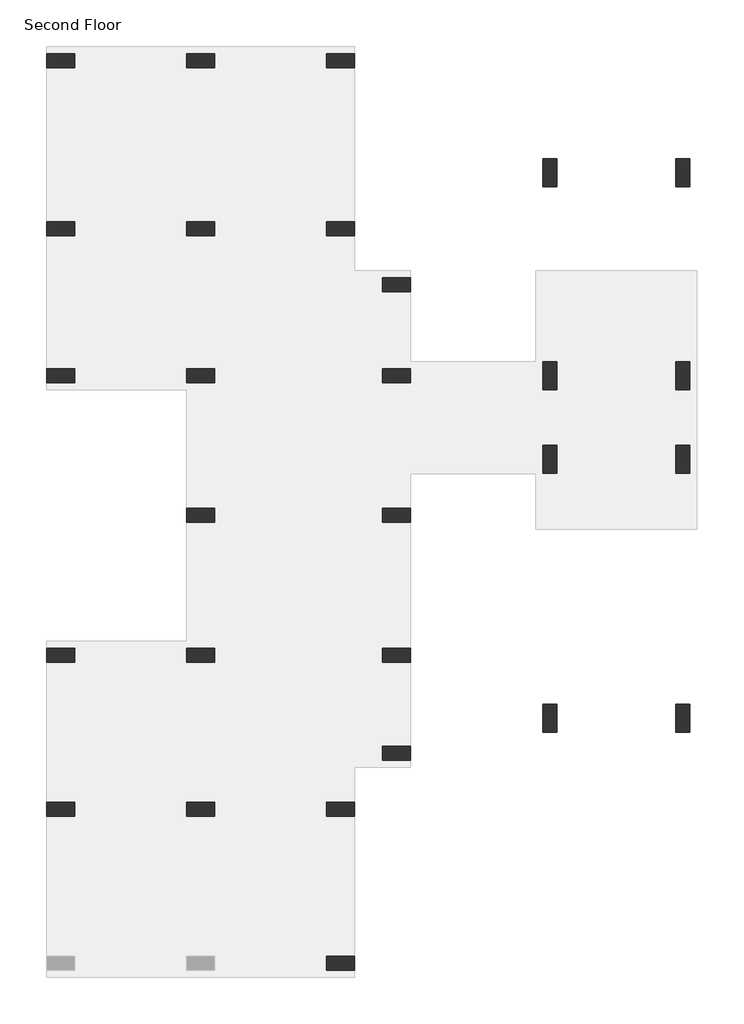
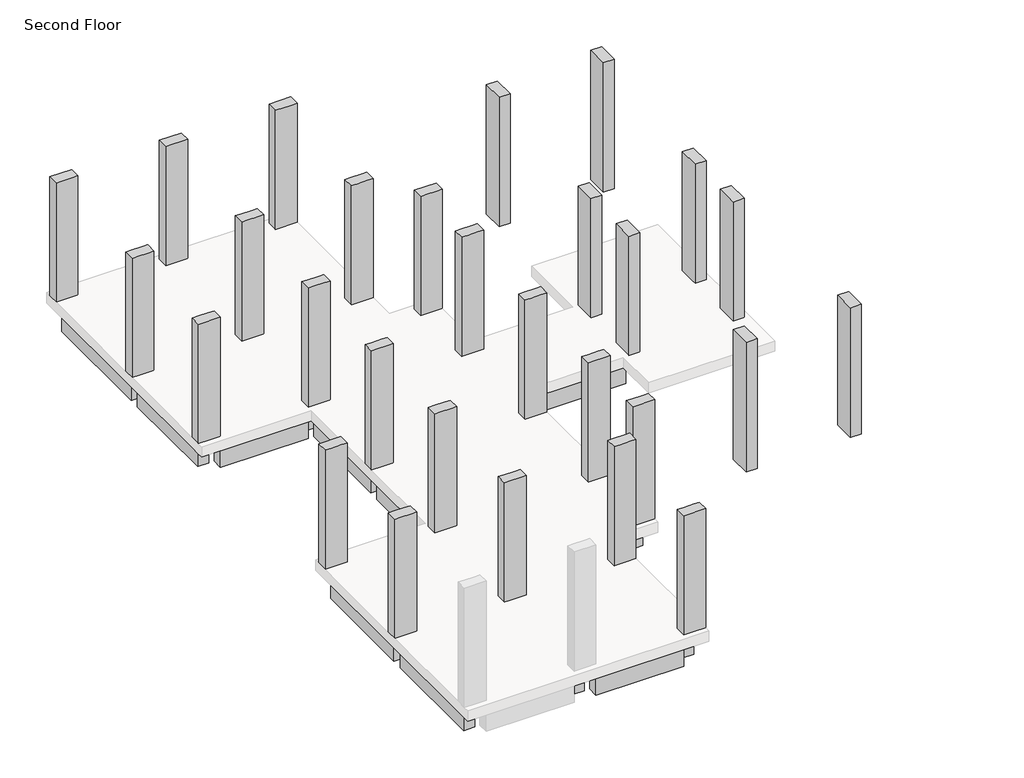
# One storey, part 2 of 2: 36 beams, 28 columns.
"""IFC4 building model written with IfcOpenShell, lengths in millimetres."""

import ifcopenshell
import ifcopenshell.guid

model = None  # the IFC model being written
_history = None  # IfcOwnerHistory: only IFC2X3 demands one
_inside = {}  # id of a spatial element -> (the spatial element, [elements in it])
_under = {}  # id of a project, library or spatial element -> (it, [spatial elements below it])
_declared = {}  # id of a project -> (the project, [libraries it declares])
_typed = {}  # id of a type object -> (the type object, [elements of that type])
_made_of = {}  # id of a material, layer set ... -> (it, [elements and type objects made of it])


def new_model(schema):
    """Start an empty IFC model of exactly this schema.

    Asked for "IFC4X3", IfcOpenShell would pick the latest addendum, in which some entities
    have other attributes; the version numbers below select the first issue.
    IFC2X3 requires an IfcOwnerHistory on every rooted entity: one is made here for all.
    """
    global model, _history
    if schema == "IFC4X3":
        model = ifcopenshell.file(schema_version=(4, 3, 0, 0))
    else:
        model = ifcopenshell.file(schema=schema)
    _inside.clear()
    _under.clear()
    _declared.clear()
    _typed.clear()
    _made_of.clear()
    _history = None
    if model.schema == "IFC2X3":
        org = make("IfcOrganization", Name="unknown")
        user = make(
            "IfcPersonAndOrganization",
            ThePerson=make("IfcPerson", FamilyName="unknown"),
            TheOrganization=org,
        )
        app = make(
            "IfcApplication",
            ApplicationDeveloper=org,
            Version="unknown",
            ApplicationFullName="unknown",
            ApplicationIdentifier="unknown",
        )
        _history = make(
            "IfcOwnerHistory",
            OwningUser=user,
            OwningApplication=app,
            ChangeAction="ADDED",
            CreationDate=0,
        )
    return model


def make(cls, **values):
    """One entity of the class cls with the attributes given. An attribute that is None is left unset."""
    return model.create_entity(
        cls, **{name: value for name, value in values.items() if value is not None}
    )


def rooted(cls, **values):
    """An entity with a GlobalId (a new one), such as an element, a storey or a relation."""
    return make(cls, GlobalId=ifcopenshell.guid.new(), OwnerHistory=_history, **values)


def si_unit(unit_type, name, prefix=None):
    """IfcSIUnit, for example si_unit("LENGTHUNIT", "METRE", prefix="MILLI")."""
    return make("IfcSIUnit", UnitType=unit_type, Prefix=prefix, Name=name)


def assignment(units):
    """IfcUnitAssignment: the units of a project."""
    return None if units is None else make("IfcUnitAssignment", Units=units)


def point(xyz):
    """IfcCartesianPoint."""
    return None if xyz is None else make("IfcCartesianPoint", Coordinates=xyz)


def direction(xyz):
    """IfcDirection."""
    return None if xyz is None else make("IfcDirection", DirectionRatios=xyz)


def frame(location, z_axis=None, x_axis=None):
    """IfcAxis2Placement3D, a coordinate frame: its origin and axes. An axis left out is left unset."""
    return make(
        "IfcAxis2Placement3D",
        Location=point(location),
        Axis=direction(z_axis),
        RefDirection=direction(x_axis),
    )


def origin():
    """The frame at (0, 0, 0) with its axes left unset."""
    return frame((0.0, 0.0, 0.0))


def place(relative_to, where):
    """IfcLocalPlacement: puts the frame where relative to a parent placement (None: the world)."""
    return make(
        "IfcLocalPlacement", PlacementRelTo=relative_to, RelativePlacement=where
    )


def context(
    kind, dimensions, precision=None, world=None, true_north=None, identifier=None
):
    """IfcGeometricRepresentationContext, for example the 3D "Model" context."""
    return make(
        "IfcGeometricRepresentationContext",
        ContextIdentifier=identifier,
        ContextType=kind,
        CoordinateSpaceDimension=dimensions,
        Precision=precision,
        WorldCoordinateSystem=world,
        TrueNorth=true_north,
    )


def project(units=None, contexts=None):
    """IfcProject with its units and contexts."""
    return rooted(
        "IfcProject",
        Name="project",
        RepresentationContexts=contexts,
        UnitsInContext=assignment(units),
    )


def spatial(cls, under=None, at=None, **own):
    """A site, building, storey or space (cls), placed at a placement, below another one or the project."""
    s = rooted(cls, ObjectPlacement=at, **own)
    if under is not None:
        _under.setdefault(under.id(), (under, []))[1].append(s)
    return s


def polyline(points):
    """IfcPolyline through the points."""
    return make("IfcPolyline", Points=[point(p) for p in points])


def outline(outer, holes=None, kind="AREA"):
    """IfcArbitraryClosedProfileDef: a profile drawn as a closed curve; with holes, ...WithVoids."""
    if holes is None:
        return make("IfcArbitraryClosedProfileDef", ProfileType=kind, OuterCurve=outer)
    return make(
        "IfcArbitraryProfileDefWithVoids",
        ProfileType=kind,
        OuterCurve=outer,
        InnerCurves=holes,
    )


def extrude(swept, where, along, depth):
    """IfcExtrudedAreaSolid: the profile swept, set in the frame where, extruded along a direction by depth."""
    return make(
        "IfcExtrudedAreaSolid",
        SweptArea=swept,
        Position=where,
        ExtrudedDirection=direction(along),
        Depth=depth,
    )


def faces_of(points, faces, orient=None, outer=None):
    """IfcFace entities. A face is a list of loops; a loop is a list of indices into points, from 0.

    orient and outer hold one flag for each loop. By default every Orientation is true, the
    first loop of a face is its IfcFaceOuterBound and the others are IfcFaceBound.
    """
    made = []
    for i, loops in enumerate(faces):
        bounds = []
        for j, loop in enumerate(loops):
            is_outer = j == 0 if outer is None else outer[i][j]
            bounds.append(
                make(
                    "IfcFaceOuterBound" if is_outer else "IfcFaceBound",
                    Bound=make("IfcPolyLoop", Polygon=[points[k] for k in loop]),
                    Orientation=True if orient is None else orient[i][j],
                )
            )
        made.append(make("IfcFace", Bounds=bounds))
    return made


def faceted_brep(points, faces, orient=None, outer=None, voids=None):
    """IfcFacetedBrep: a solid bounded by flat faces; with voids (closed shells), ...WithVoids."""
    shared = [point(p) for p in points]
    hull = make("IfcClosedShell", CfsFaces=faces_of(shared, faces, orient, outer))
    if voids is None:
        return make("IfcFacetedBrep", Outer=hull)
    return make(
        "IfcFacetedBrepWithVoids",
        Outer=hull,
        Voids=[
            make(cls, CfsFaces=faces_of(shared, fs, o, b)) for cls, fs, o, b in voids
        ],
    )


def shape(context_of_items, identifier, shape_type, items):
    """IfcShapeRepresentation: the items that make up one representation, for example the "Body"."""
    return make(
        "IfcShapeRepresentation",
        ContextOfItems=context_of_items,
        RepresentationIdentifier=identifier,
        RepresentationType=shape_type,
        Items=items,
    )


def made_of(thing, what):
    """Note that an element or type object is made of a material, layer set ...; save() writes the relation."""
    if what is not None:
        _made_of.setdefault(what.id(), (what, []))[1].append(thing)
    return thing


def element(
    cls,
    number,
    at=None,
    inside=None,
    cuts=None,
    type_object=None,
    material=None,
    context=None,
    identifier="Body",
    shape_type=None,
    held_by="IfcProductDefinitionShape",
    body=None,
    shapes=None,
    **own,
):
    """One element of the class cls, such as IfcWall. Its Tag is "e" and its number.

    at: its placement. inside: the storey or other place that contains it. cuts: it is an
    opening in that element (IfcRelVoidsElement). A single representation is given by context,
    identifier, shape_type and body (its items); several are given by shapes. held_by: the class
    of the entity that holds the representations. save() writes the other relations.
    """
    e = rooted(cls, Tag="e%d" % number, ObjectPlacement=at, **own)
    if body is not None:
        shapes = [shape(context, identifier, shape_type, body)]
    if shapes is not None:
        e.Representation = make(held_by, Representations=shapes)
    if inside is not None:
        _inside.setdefault(inside.id(), (inside, []))[1].append(e)
    if cuts is not None:
        rooted(
            "IfcRelVoidsElement", RelatingBuildingElement=cuts, RelatedOpeningElement=e
        )
    if type_object is not None:
        _typed.setdefault(type_object.id(), (type_object, []))[1].append(e)
    return made_of(e, material)


def aggregate(whole, parts):
    """IfcRelAggregates: a whole, such as a stair, and the parts it consists of."""
    return rooted("IfcRelAggregates", RelatingObject=whole, RelatedObjects=parts)


def save(model, path):
    """Write the relations noted so far, then the file.

    IfcRelAggregates (storeys below a building ...), IfcRelContainedInSpatialStructure (elements
    in a storey), IfcRelDefinesByType, IfcRelAssociatesMaterial and IfcRelDeclares: one each for
    every whole, place, type object, material and project.
    """
    for whole, parts in _under.values():
        aggregate(whole, parts)
    for where, things in _inside.values():
        rooted(
            "IfcRelContainedInSpatialStructure",
            RelatedElements=things,
            RelatingStructure=where,
        )
    for kind, things in _typed.values():
        rooted("IfcRelDefinesByType", RelatedObjects=things, RelatingType=kind)
    for what, things in _made_of.values():
        rooted("IfcRelAssociatesMaterial", RelatedObjects=things, RelatingMaterial=what)
    for by, libraries in _declared.values():
        rooted("IfcRelDeclares", RelatingContext=by, RelatedDefinitions=libraries)
    model.write(path)


model = new_model("IFC4")

# Units and contexts
model_context = context("Model", 3, world=origin())
ifc_project = project(units=[si_unit("LENGTHUNIT", "METRE", prefix="MILLI")], contexts=[model_context])

# Site, building, storey
site = spatial("IfcSite", under=ifc_project)
building = spatial("IfcBuilding", under=site)
storey = spatial("IfcBuildingStorey", under=building, Name="Second Floor", Elevation=3810.0)

# Beams
placement = place(None, origin())
element("IfcBeam", 1, ObjectType="Concrete-Rectangular Beam : 12 x 24", at=placement, inside=storey, context=model_context, shape_type="SweptSolid", body=[
    extrude(outline(polyline([(-12919.1663981, 10274.1487848), (-12919.1663981, 9969.3487848), (-15357.5663981, 9969.3487848), (-15357.5663981, 10274.1487848), (-12919.1663981, 10274.1487848)])), frame((0.0, 0.0, 2895.6), z_axis=(0.0, 0.0, 1.0), x_axis=(1.0, 0.0, 0.0)), (0.0, 0.0, 1.0), 609.6),
])
element("IfcBeam", 2, ObjectType="Concrete-Rectangular Beam : 12 x 24", at=placement, inside=storey, context=model_context, shape_type="SweptSolid", body=[
    extrude(outline(polyline([(-9871.1663981, 10274.1487848), (-9871.1663981, 9969.3487848), (-12309.5663981, 9969.3487848), (-12309.5663981, 10274.1487848), (-9871.1663981, 10274.1487848)])), frame((0.0, 0.0, 2895.6), z_axis=(0.0, 0.0, 1.0), x_axis=(1.0, 0.0, 0.0)), (0.0, 0.0, 1.0), 609.6),
])
element("IfcBeam", 3, ObjectType="Concrete-Rectangular Beam : 12 x 24", at=placement, inside=storey, context=model_context, shape_type="SweptSolid", body=[
    extrude(outline(polyline([(-15509.9663981, 6616.5487848), (-15814.7663981, 6616.5487848), (-15814.7663981, 9969.3487848), (-15509.9663981, 9969.3487848), (-15509.9663981, 6616.5487848)])), frame((0.0, 0.0, 2895.6), z_axis=(0.0, 0.0, 1.0), x_axis=(1.0, 0.0, 0.0)), (0.0, 0.0, 1.0), 609.6),
])
element("IfcBeam", 4, ObjectType="Concrete-Rectangular Beam : 12 x 24", at=placement, inside=storey, context=model_context, shape_type="SweptSolid", body=[
    extrude(outline(polyline([(-15509.9663981, 3416.1487848), (-15814.7663981, 3416.1487848), (-15814.7663981, 6311.7487848), (-15509.9663981, 6311.7487848), (-15509.9663981, 3416.1487848)])), frame((0.0, 0.0, 2895.6), z_axis=(0.0, 0.0, 1.0), x_axis=(1.0, 0.0, 0.0)), (0.0, 0.0, 1.0), 609.6),
])
element("IfcBeam", 5, ObjectType="Concrete-Rectangular Beam : 12 x 24", at=placement, inside=storey, context=model_context, shape_type="SweptSolid", body=[
    extrude(outline(polyline([(-9413.9663981, 6616.5487848), (-9718.7663981, 6616.5487848), (-9718.7663981, 9969.3487848), (-9413.9663981, 9969.3487848), (-9413.9663981, 6616.5487848)])), frame((0.0, 0.0, 2895.6), z_axis=(0.0, 0.0, 1.0), x_axis=(1.0, 0.0, 0.0)), (0.0, 0.0, 1.0), 609.6),
])
element("IfcBeam", 6, ObjectType="Concrete-Rectangular Beam : 12 x 24", at=placement, inside=storey, context=model_context, shape_type="SweptSolid", body=[
    extrude(outline(polyline([(-12461.9663981, 6616.5487848), (-12766.7663981, 6616.5487848), (-12766.7663981, 9969.3487848), (-12461.9663981, 9969.3487848), (-12461.9663981, 6616.5487848)])), frame((0.0, 0.0, 2895.6), z_axis=(0.0, 0.0, 1.0), x_axis=(1.0, 0.0, 0.0)), (0.0, 0.0, 1.0), 609.6),
])
element("IfcBeam", 7, ObjectType="Concrete-Rectangular Beam : 12 x 24", at=placement, inside=storey, context=model_context, shape_type="SweptSolid", body=[
    extrude(outline(polyline([(-12919.1663981, 6616.5487848), (-12919.1663981, 6311.7487848), (-15357.5663981, 6311.7487848), (-15357.5663981, 6616.5487848), (-12919.1663981, 6616.5487848)])), frame((0.0, 0.0, 2895.6), z_axis=(0.0, 0.0, 1.0), x_axis=(1.0, 0.0, 0.0)), (0.0, 0.0, 1.0), 609.6),
])
element("IfcBeam", 8, ObjectType="Concrete-Rectangular Beam : 12 x 24", at=placement, inside=storey, context=model_context, shape_type="SweptSolid", body=[
    extrude(outline(polyline([(-9871.1663981, 6616.5487848), (-9871.1663981, 6311.7487848), (-12309.5663981, 6311.7487848), (-12309.5663981, 6616.5487848), (-9871.1663981, 6616.5487848)])), frame((0.0, 0.0, 2895.6), z_axis=(0.0, 0.0, 1.0), x_axis=(1.0, 0.0, 0.0)), (0.0, 0.0, 1.0), 609.6),
])
element("IfcBeam", 9, ObjectType="Concrete-Rectangular Beam : 12 x 24", at=placement, inside=storey, context=model_context, shape_type="SweptSolid", body=[
    extrude(outline(polyline([(-12919.1663981, 3416.1487848), (-12919.1663981, 3111.3487848), (-15357.5663981, 3111.3487848), (-15357.5663981, 3416.1487848), (-12919.1663981, 3416.1487848)])), frame((0.0, 0.0, 2895.6), z_axis=(0.0, 0.0, 1.0), x_axis=(1.0, 0.0, 0.0)), (0.0, 0.0, 1.0), 609.6),
])
element("IfcBeam", 10, ObjectType="Concrete-Rectangular Beam : 12 x 24", at=placement, inside=storey, context=model_context, shape_type="SweptSolid", body=[
    extrude(outline(polyline([(-8651.9663981, 3416.1487848), (-8651.9663981, 3111.3487848), (-12309.5663981, 3111.3487848), (-12309.5663981, 3416.1487848), (-8651.9663981, 3416.1487848)])), frame((0.0, 0.0, 2895.6), z_axis=(0.0, 0.0, 1.0), x_axis=(1.0, 0.0, 0.0)), (0.0, 0.0, 1.0), 609.6),
])
element("IfcBeam", 11, ObjectType="Concrete-Rectangular Beam : 12 x 24", at=placement, inside=storey, context=model_context, shape_type="Brep", body=[
    faceted_brep([(-8651.9663981, 5092.5487848, 3505.2), (-8651.9663981, 5397.3487848, 3505.2), (-9413.9663981, 5397.3487848, 3505.2), (-9718.7663981, 5397.3487848, 3505.2), (-9718.7663981, 5092.5487848, 3505.2), (-8651.9663981, 5397.3487848, 2895.6), (-9413.9663981, 5397.3487848, 2895.6), (-9718.7663981, 5397.3487848, 2895.6), (-8651.9663981, 5092.5487848, 2895.6), (-9718.7663981, 5092.5487848, 2895.6)], [[[0, 1, 2, 3, 4]], [[1, 5, 6, 7, 3, 2]], [[5, 8, 9, 7, 6]], [[8, 0, 4, 9]], [[0, 8, 5, 1]], [[4, 3, 7, 9]]]),
])
element("IfcBeam", 12, ObjectType="Concrete-Rectangular Beam : 12 x 24", at=placement, inside=storey, context=model_context, shape_type="SweptSolid", body=[
    extrude(outline(polyline([(-9718.7663981, 6311.7487848), (-9413.9663981, 6311.7487848), (-9413.9663981, 5397.3487848), (-9718.7663981, 5397.3487848), (-9718.7663981, 6311.7487848)])), frame((0.0, 0.0, 2895.6), z_axis=(0.0, 0.0, 1.0), x_axis=(1.0, 0.0, 0.0)), (0.0, 0.0, 1.0), 609.6),
])
element("IfcBeam", 13, ObjectType="Concrete-Rectangular Beam : 12 x 24", at=placement, inside=storey, context=model_context, shape_type="SweptSolid", body=[
    extrude(outline(polyline([(-8194.7663981, 3416.1487848), (-8499.5663981, 3416.1487848), (-8499.5663981, 5092.5487848), (-8194.7663981, 5092.5487848), (-8194.7663981, 3416.1487848)])), frame((0.0, 0.0, 2895.6), z_axis=(0.0, 0.0, 1.0), x_axis=(1.0, 0.0, 0.0)), (0.0, 0.0, 1.0), 609.6),
])
element("IfcBeam", 14, ObjectType="Concrete-Rectangular Beam : 12 x 24", at=placement, inside=storey, context=model_context, shape_type="SweptSolid", body=[
    extrude(outline(polyline([(-12461.9663981, 3416.1487848), (-12766.7663981, 3416.1487848), (-12766.7663981, 6311.7487848), (-12461.9663981, 6311.7487848), (-12461.9663981, 3416.1487848)])), frame((0.0, 0.0, 2895.6), z_axis=(0.0, 0.0, 1.0), x_axis=(1.0, 0.0, 0.0)), (0.0, 0.0, 1.0), 609.6),
])
element("IfcBeam", 15, ObjectType="Concrete-Rectangular Beam : 12 x 24", at=placement, inside=storey, context=model_context, shape_type="SweptSolid", body=[
    extrude(outline(polyline([(-8042.3663981, 3111.3487848), (-8042.3663981, 3416.1487848), (-5146.7663981, 3416.1487848), (-5146.7663981, 3111.3487848), (-8042.3663981, 3111.3487848)])), frame((0.0, 0.0, 2895.6), z_axis=(0.0, 0.0, 1.0), x_axis=(1.0, 0.0, 0.0)), (0.0, 0.0, 1.0), 609.6),
])
element("IfcBeam", 16, ObjectType="Concrete-Rectangular Beam : 12 x 24", at=placement, inside=storey, context=model_context, shape_type="Brep", body=[
    faceted_brep([(-8499.5663981, 368.1487848, 3505.2), (-8194.7663981, 368.1487848, 3505.2), (-8194.7663981, 1282.5487848, 3505.2), (-8194.7663981, 1587.3487848, 3505.2), (-8194.7663981, 3111.3487848, 3505.2), (-8499.5663981, 3111.3487848, 3505.2), (-8499.5663981, 368.1487848, 2895.6), (-8499.5663981, 3111.3487848, 2895.6), (-8194.7663981, 368.1487848, 2895.6), (-8194.7663981, 3111.3487848, 2895.6), (-8194.7663981, 1587.3487848, 2895.6), (-8194.7663981, 1282.5487848, 2895.6)], [[[0, 1, 2, 3, 4, 5]], [[6, 0, 5, 7]], [[8, 6, 7, 9, 10, 11]], [[1, 8, 11, 10, 9, 4, 3, 2]], [[4, 9, 7, 5]], [[1, 0, 6, 8]]]),
])
element("IfcBeam", 17, ObjectType="Concrete-Rectangular Beam : 12 x 24", at=placement, inside=storey, context=model_context, shape_type="SweptSolid", body=[
    extrude(outline(polyline([(-8194.7663981, -2679.8512152), (-8499.5663981, -2679.8512152), (-8499.5663981, 63.3487848), (-8194.7663981, 63.3487848), (-8194.7663981, -2679.8512152)])), frame((0.0, 0.0, 2895.6), z_axis=(0.0, 0.0, 1.0), x_axis=(1.0, 0.0, 0.0)), (0.0, 0.0, 1.0), 609.6),
])
element("IfcBeam", 18, ObjectType="Concrete-Rectangular Beam : 12 x 24", at=placement, inside=storey, context=model_context, shape_type="SweptSolid", body=[
    extrude(outline(polyline([(-8194.7663981, -4813.4512152), (-8499.5663981, -4813.4512152), (-8499.5663981, -2984.6512152), (-8194.7663981, -2984.6512152), (-8194.7663981, -4813.4512152)])), frame((0.0, 0.0, 2895.6), z_axis=(0.0, 0.0, 1.0), x_axis=(1.0, 0.0, 0.0)), (0.0, 0.0, 1.0), 609.6),
])
element("IfcBeam", 19, ObjectType="Concrete-Rectangular Beam : 12 x 24", at=placement, inside=storey, context=model_context, shape_type="SweptSolid", body=[
    extrude(outline(polyline([(-8194.7663981, 1282.5487848), (-8194.7663981, 1587.3487848), (-5146.7663981, 1587.3487848), (-5146.7663981, 1282.5487848), (-8194.7663981, 1282.5487848)])), frame((0.0, 0.0, 2895.6), z_axis=(0.0, 0.0, 1.0), x_axis=(1.0, 0.0, 0.0)), (0.0, 0.0, 1.0), 609.6),
])
element("IfcBeam", 20, ObjectType="Concrete-Rectangular Beam : 12 x 24", at=placement, inside=storey, context=model_context, shape_type="SweptSolid", body=[
    extrude(outline(polyline([(-12461.9663981, 368.1487848), (-12766.7663981, 368.1487848), (-12766.7663981, 3111.3487848), (-12461.9663981, 3111.3487848), (-12461.9663981, 368.1487848)])), frame((0.0, 0.0, 2895.6), z_axis=(0.0, 0.0, 1.0), x_axis=(1.0, 0.0, 0.0)), (0.0, 0.0, 1.0), 609.6),
])
element("IfcBeam", 21, ObjectType="Concrete-Rectangular Beam : 12 x 24", at=placement, inside=storey, context=model_context, shape_type="SweptSolid", body=[
    extrude(outline(polyline([(-12461.9663981, -2679.8512152), (-12766.7663981, -2679.8512152), (-12766.7663981, 63.3487848), (-12461.9663981, 63.3487848), (-12461.9663981, -2679.8512152)])), frame((0.0, 0.0, 2895.6), z_axis=(0.0, 0.0, 1.0), x_axis=(1.0, 0.0, 0.0)), (0.0, 0.0, 1.0), 609.6),
])
element("IfcBeam", 22, ObjectType="Concrete-Rectangular Beam : 12 x 24", at=placement, inside=storey, context=model_context, shape_type="SweptSolid", body=[
    extrude(outline(polyline([(-12919.1663981, -2679.8512152), (-12919.1663981, -2984.6512152), (-15357.5663981, -2984.6512152), (-15357.5663981, -2679.8512152), (-12919.1663981, -2679.8512152)])), frame((0.0, 0.0, 2895.6), z_axis=(0.0, 0.0, 1.0), x_axis=(1.0, 0.0, 0.0)), (0.0, 0.0, 1.0), 609.6),
])
element("IfcBeam", 23, ObjectType="Concrete-Rectangular Beam : 12 x 24", at=placement, inside=storey, context=model_context, shape_type="SweptSolid", body=[
    extrude(outline(polyline([(-8651.9663981, -2679.8512152), (-8651.9663981, -2984.6512152), (-12309.5663981, -2984.6512152), (-12309.5663981, -2679.8512152), (-8651.9663981, -2679.8512152)])), frame((0.0, 0.0, 2895.6), z_axis=(0.0, 0.0, 1.0), x_axis=(1.0, 0.0, 0.0)), (0.0, 0.0, 1.0), 609.6),
])
element("IfcBeam", 24, ObjectType="Concrete-Rectangular Beam : 12 x 24", at=placement, inside=storey, context=model_context, shape_type="SweptSolid", body=[
    extrude(outline(polyline([(-8651.9663981, 368.1487848), (-8651.9663981, 63.3487848), (-12309.5663981, 63.3487848), (-12309.5663981, 368.1487848), (-8651.9663981, 368.1487848)])), frame((0.0, 0.0, 2895.6), z_axis=(0.0, 0.0, 1.0), x_axis=(1.0, 0.0, 0.0)), (0.0, 0.0, 1.0), 609.6),
])
element("IfcBeam", 25, ObjectType="Concrete-Rectangular Beam : 12 x 24", at=placement, inside=storey, context=model_context, shape_type="SweptSolid", body=[
    extrude(outline(polyline([(-15509.9663981, -6032.6512152), (-15814.7663981, -6032.6512152), (-15814.7663981, -2984.6512152), (-15509.9663981, -2984.6512152), (-15509.9663981, -6032.6512152)])), frame((0.0, 0.0, 2895.6), z_axis=(0.0, 0.0, 1.0), x_axis=(1.0, 0.0, 0.0)), (0.0, 0.0, 1.0), 609.6),
])
element("IfcBeam", 26, ObjectType="Concrete-Rectangular Beam : 12 x 24", at=placement, inside=storey, context=model_context, shape_type="SweptSolid", body=[
    extrude(outline(polyline([(-12919.1663981, -6032.6512152), (-12919.1663981, -6337.4512152), (-15357.5663981, -6337.4512152), (-15357.5663981, -6032.6512152), (-12919.1663981, -6032.6512152)])), frame((0.0, 0.0, 2895.6), z_axis=(0.0, 0.0, 1.0), x_axis=(1.0, 0.0, 0.0)), (0.0, 0.0, 1.0), 609.6),
])
element("IfcBeam", 27, ObjectType="Concrete-Rectangular Beam : 12 x 24", at=placement, inside=storey, context=model_context, shape_type="SweptSolid", body=[
    extrude(outline(polyline([(-9871.1663981, -6032.6512152), (-9871.1663981, -6337.4512152), (-12309.5663981, -6337.4512152), (-12309.5663981, -6032.6512152), (-9871.1663981, -6032.6512152)])), frame((0.0, 0.0, 2895.6), z_axis=(0.0, 0.0, 1.0), x_axis=(1.0, 0.0, 0.0)), (0.0, 0.0, 1.0), 609.6),
])
element("IfcBeam", 28, ObjectType="Concrete-Rectangular Beam : 12 x 24", at=placement, inside=storey, context=model_context, shape_type="SweptSolid", body=[
    extrude(outline(polyline([(-12461.9663981, -6032.6512152), (-12766.7663981, -6032.6512152), (-12766.7663981, -2984.6512152), (-12461.9663981, -2984.6512152), (-12461.9663981, -6032.6512152)])), frame((0.0, 0.0, 2895.6), z_axis=(0.0, 0.0, 1.0), x_axis=(1.0, 0.0, 0.0)), (0.0, 0.0, 1.0), 609.6),
])
element("IfcBeam", 29, ObjectType="Concrete-Rectangular Beam : 12 x 24", at=placement, inside=storey, context=model_context, shape_type="SweptSolid", body=[
    extrude(outline(polyline([(-15509.9663981, -9385.4512152), (-15814.7663981, -9385.4512152), (-15814.7663981, -6337.4512152), (-15509.9663981, -6337.4512152), (-15509.9663981, -9385.4512152)])), frame((0.0, 0.0, 2895.6), z_axis=(0.0, 0.0, 1.0), x_axis=(1.0, 0.0, 0.0)), (0.0, 0.0, 1.0), 609.6),
])
element("IfcBeam", 30, ObjectType="Concrete-Rectangular Beam : 12 x 24", at=placement, inside=storey, context=model_context, shape_type="SweptSolid", body=[
    extrude(outline(polyline([(-9871.1663981, -9385.4512152), (-9871.1663981, -9690.2512152), (-12309.5663981, -9690.2512152), (-12309.5663981, -9385.4512152), (-9871.1663981, -9385.4512152)])), frame((0.0, 0.0, 2895.6), z_axis=(0.0, 0.0, 1.0), x_axis=(1.0, 0.0, 0.0)), (0.0, 0.0, 1.0), 609.6),
])
element("IfcBeam", 31, ObjectType="Concrete-Rectangular Beam : 12 x 24", at=placement, inside=storey, context=model_context, shape_type="SweptSolid", body=[
    extrude(outline(polyline([(-12461.9663981, -9385.4512152), (-12766.7663981, -9385.4512152), (-12766.7663981, -6337.4512152), (-12461.9663981, -6337.4512152), (-12461.9663981, -9385.4512152)])), frame((0.0, 0.0, 2895.6), z_axis=(0.0, 0.0, 1.0), x_axis=(1.0, 0.0, 0.0)), (0.0, 0.0, 1.0), 609.6),
])
element("IfcBeam", 32, ObjectType="Concrete-Rectangular Beam : 12 x 24", at=placement, inside=storey, context=model_context, shape_type="SweptSolid", body=[
    extrude(outline(polyline([(-9413.9663981, -9385.4512152), (-9718.7663981, -9385.4512152), (-9718.7663981, -6337.4512152), (-9413.9663981, -6337.4512152), (-9413.9663981, -9385.4512152)])), frame((0.0, 0.0, 2895.6), z_axis=(0.0, 0.0, 1.0), x_axis=(1.0, 0.0, 0.0)), (0.0, 0.0, 1.0), 609.6),
])
element("IfcBeam", 33, ObjectType="Concrete-Rectangular Beam : 12 x 24", at=placement, inside=storey, context=model_context, shape_type="Brep", body=[
    faceted_brep([(-9718.7663981, -6032.6512152, 3505.2), (-9413.9663981, -6032.6512152, 3505.2), (-9413.9663981, -5118.2512152, 3505.2), (-9413.9663981, -4813.4512152, 3505.2), (-9718.7663981, -4813.4512152, 3505.2), (-9413.9663981, -6032.6512152, 2895.6), (-9413.9663981, -5118.2512152, 2895.6), (-9413.9663981, -4813.4512152, 2895.6), (-9718.7663981, -6032.6512152, 2895.6), (-9718.7663981, -4813.4512152, 2895.6)], [[[0, 1, 2, 3, 4]], [[1, 5, 6, 7, 3, 2]], [[5, 8, 9, 7, 6]], [[8, 0, 4, 9]], [[0, 8, 5, 1]], [[4, 3, 7, 9]]]),
])
element("IfcBeam", 34, ObjectType="Concrete-Rectangular Beam : 12 x 24", at=placement, inside=storey, context=model_context, shape_type="SweptSolid", body=[
    extrude(outline(polyline([(-8651.9663981, -4813.4512152), (-8651.9663981, -5118.2512152), (-9413.9663981, -5118.2512152), (-9413.9663981, -4813.4512152), (-8651.9663981, -4813.4512152)])), frame((0.0, 0.0, 2895.6), z_axis=(0.0, 0.0, 1.0), x_axis=(1.0, 0.0, 0.0)), (0.0, 0.0, 1.0), 609.6),
])
element("IfcBeam", 35, ObjectType="Concrete-Rectangular Beam : 12 x 24", at=placement, inside=storey, context=model_context, shape_type="SweptSolid", body=[
    extrude(outline(polyline([(-4841.9663981, 3111.3487848), (-4841.9663981, 3416.1487848), (-2251.1663981, 3416.1487848), (-2251.1663981, 3111.3487848), (-4841.9663981, 3111.3487848)])), frame((0.0, 0.0, 2895.6), z_axis=(0.0, 0.0, 1.0), x_axis=(1.0, 0.0, 0.0)), (0.0, 0.0, 1.0), 609.6),
])
element("IfcBeam", 36, ObjectType="Concrete-Rectangular Beam : 12 x 24", at=placement, inside=storey, context=model_context, shape_type="SweptSolid", body=[
    extrude(outline(polyline([(-4841.9663981, 1282.5487848), (-4841.9663981, 1587.3487848), (-2251.1663981, 1587.3487848), (-2251.1663981, 1282.5487848), (-4841.9663981, 1282.5487848)])), frame((0.0, 0.0, 2895.6), z_axis=(0.0, 0.0, 1.0), x_axis=(1.0, 0.0, 0.0)), (0.0, 0.0, 1.0), 609.6),
])

# Columns
element("IfcColumn", 37, ObjectType="Concrete-Rectangular-Column : 12 x 24", at=placement, inside=storey, context=model_context, shape_type="Brep", body=[
    faceted_brep([(-15967.1663981, 10274.1487848, 3810.0), (-15357.5663981, 10274.1487848, 3810.0), (-15357.5663981, 9969.3487848, 3810.0), (-15967.1663981, 9969.3487848, 3810.0), (-15967.1663981, 10274.1487848, 7315.2), (-15357.5663981, 10274.1487848, 7315.2), (-15357.5663981, 10274.1487848, 6705.6), (-15357.5663981, 9969.3487848, 7315.2), (-15357.5663981, 9969.3487848, 6705.6), (-15509.9663981, 9969.3487848, 7315.2), (-15814.7663981, 9969.3487848, 7315.2), (-15967.1663981, 9969.3487848, 7315.2)], [[[0, 1, 2, 3]], [[4, 5, 6, 1, 0]], [[5, 7, 8, 2, 1, 6]], [[7, 9, 10, 11, 3, 2, 8]], [[11, 4, 0, 3]], [[4, 11, 10, 9, 7, 5]]]),
])
element("IfcColumn", 38, ObjectType="Concrete-Rectangular-Column : 12 x 24", at=placement, inside=storey, context=model_context, shape_type="Brep", body=[
    faceted_brep([(-15967.1663981, 6616.5487848, 3810.0), (-15357.5663981, 6616.5487848, 3810.0), (-15357.5663981, 6311.7487848, 3810.0), (-15967.1663981, 6311.7487848, 3810.0), (-15967.1663981, 6616.5487848, 7315.2), (-15814.7663981, 6616.5487848, 7315.2), (-15509.9663981, 6616.5487848, 7315.2), (-15357.5663981, 6616.5487848, 7315.2), (-15357.5663981, 6616.5487848, 6705.6), (-15357.5663981, 6311.7487848, 7315.2), (-15357.5663981, 6311.7487848, 6705.6), (-15509.9663981, 6311.7487848, 7315.2), (-15814.7663981, 6311.7487848, 7315.2), (-15967.1663981, 6311.7487848, 7315.2)], [[[0, 1, 2, 3]], [[4, 5, 6, 7, 8, 1, 0]], [[7, 9, 10, 2, 1, 8]], [[9, 11, 12, 13, 3, 2, 10]], [[13, 4, 0, 3]], [[4, 13, 12, 11, 9, 7, 6, 5]]]),
])
element("IfcColumn", 39, ObjectType="Concrete-Rectangular-Column : 12 x 24", at=placement, inside=storey, context=model_context, shape_type="Brep", body=[
    faceted_brep([(-15967.1663981, 3416.1487848, 3810.0), (-15357.5663981, 3416.1487848, 3810.0), (-15357.5663981, 3111.3487848, 3810.0), (-15967.1663981, 3111.3487848, 3810.0), (-15967.1663981, 3416.1487848, 7315.2), (-15814.7663981, 3416.1487848, 7315.2), (-15509.9663981, 3416.1487848, 7315.2), (-15357.5663981, 3416.1487848, 7315.2), (-15357.5663981, 3416.1487848, 6705.6), (-15357.5663981, 3111.3487848, 7315.2), (-15357.5663981, 3111.3487848, 6705.6), (-15967.1663981, 3111.3487848, 7315.2)], [[[0, 1, 2, 3]], [[4, 5, 6, 7, 8, 1, 0]], [[7, 9, 10, 2, 1, 8]], [[9, 11, 3, 2, 10]], [[11, 4, 0, 3]], [[4, 11, 9, 7, 6, 5]]]),
])
element("IfcColumn", 40, ObjectType="Concrete-Rectangular-Column : 12 x 24", at=placement, inside=storey, context=model_context, shape_type="Brep", body=[
    faceted_brep([(-15967.1663981, -2679.8512152, 3810.0), (-15357.5663981, -2679.8512152, 3810.0), (-15357.5663981, -2984.6512152, 3810.0), (-15967.1663981, -2984.6512152, 3810.0), (-15967.1663981, -2679.8512152, 7315.2), (-15357.5663981, -2679.8512152, 7315.2), (-15357.5663981, -2679.8512152, 6705.6), (-15357.5663981, -2984.6512152, 7315.2), (-15357.5663981, -2984.6512152, 6705.6), (-15509.9663981, -2984.6512152, 7315.2), (-15814.7663981, -2984.6512152, 7315.2), (-15967.1663981, -2984.6512152, 7315.2)], [[[0, 1, 2, 3]], [[4, 5, 6, 1, 0]], [[5, 7, 8, 2, 1, 6]], [[7, 9, 10, 11, 3, 2, 8]], [[11, 4, 0, 3]], [[4, 11, 10, 9, 7, 5]]]),
])
element("IfcColumn", 41, ObjectType="Concrete-Rectangular-Column : 12 x 24", at=placement, inside=storey, context=model_context, shape_type="Brep", body=[
    faceted_brep([(-15967.1663981, -6032.6512152, 3810.0), (-15357.5663981, -6032.6512152, 3810.0), (-15357.5663981, -6337.4512152, 3810.0), (-15967.1663981, -6337.4512152, 3810.0), (-15967.1663981, -6032.6512152, 7315.2), (-15814.7663981, -6032.6512152, 7315.2), (-15509.9663981, -6032.6512152, 7315.2), (-15357.5663981, -6032.6512152, 7315.2), (-15357.5663981, -6032.6512152, 6705.6), (-15357.5663981, -6337.4512152, 7315.2), (-15357.5663981, -6337.4512152, 6705.6), (-15509.9663981, -6337.4512152, 7315.2), (-15814.7663981, -6337.4512152, 7315.2), (-15967.1663981, -6337.4512152, 7315.2)], [[[0, 1, 2, 3]], [[4, 5, 6, 7, 8, 1, 0]], [[7, 9, 10, 2, 1, 8]], [[9, 11, 12, 13, 3, 2, 10]], [[13, 4, 0, 3]], [[4, 13, 12, 11, 9, 7, 6, 5]]]),
])
element("IfcColumn", 42, ObjectType="Concrete-Rectangular-Column : 12 x 24", at=placement, inside=storey, context=model_context, shape_type="Brep", body=[
    faceted_brep([(-12919.1663981, -6032.6512152, 3810.0), (-12309.5663981, -6032.6512152, 3810.0), (-12309.5663981, -6337.4512152, 3810.0), (-12919.1663981, -6337.4512152, 3810.0), (-12919.1663981, -6032.6512152, 7315.2), (-12766.7663981, -6032.6512152, 7315.2), (-12461.9663981, -6032.6512152, 7315.2), (-12309.5663981, -6032.6512152, 7315.2), (-12309.5663981, -6032.6512152, 6705.6), (-12919.1663981, -6032.6512152, 6705.6), (-12309.5663981, -6337.4512152, 7315.2), (-12309.5663981, -6337.4512152, 6705.6), (-12461.9663981, -6337.4512152, 7315.2), (-12766.7663981, -6337.4512152, 7315.2), (-12919.1663981, -6337.4512152, 7315.2), (-12919.1663981, -6337.4512152, 6705.6)], [[[0, 1, 2, 3]], [[4, 5, 6, 7, 8, 1, 0, 9]], [[7, 10, 11, 2, 1, 8]], [[10, 12, 13, 14, 15, 3, 2, 11]], [[14, 4, 9, 0, 3, 15]], [[4, 14, 13, 12, 10, 7, 6, 5]]]),
])
element("IfcColumn", 43, ObjectType="Concrete-Rectangular-Column : 12 x 24", at=placement, inside=storey, context=model_context, shape_type="Brep", body=[
    faceted_brep([(-12919.1663981, -2679.8512152, 3810.0), (-12309.5663981, -2679.8512152, 3810.0), (-12309.5663981, -2984.6512152, 3810.0), (-12919.1663981, -2984.6512152, 3810.0), (-12919.1663981, -2679.8512152, 7315.2), (-12766.7663981, -2679.8512152, 7315.2), (-12461.9663981, -2679.8512152, 7315.2), (-12309.5663981, -2679.8512152, 7315.2), (-12309.5663981, -2679.8512152, 6705.6), (-12919.1663981, -2679.8512152, 6705.6), (-12309.5663981, -2984.6512152, 7315.2), (-12309.5663981, -2984.6512152, 6705.6), (-12461.9663981, -2984.6512152, 7315.2), (-12766.7663981, -2984.6512152, 7315.2), (-12919.1663981, -2984.6512152, 7315.2), (-12919.1663981, -2984.6512152, 6705.6)], [[[0, 1, 2, 3]], [[4, 5, 6, 7, 8, 1, 0, 9]], [[7, 10, 11, 2, 1, 8]], [[10, 12, 13, 14, 15, 3, 2, 11]], [[14, 4, 9, 0, 3, 15]], [[4, 14, 13, 12, 10, 7, 6, 5]]]),
])
element("IfcColumn", 44, ObjectType="Concrete-Rectangular-Column : 12 x 24", at=placement, inside=storey, context=model_context, shape_type="Brep", body=[
    faceted_brep([(-12919.1663981, 368.1487848, 3810.0), (-12309.5663981, 368.1487848, 3810.0), (-12309.5663981, 63.3487848, 3810.0), (-12919.1663981, 63.3487848, 3810.0), (-12919.1663981, 368.1487848, 7315.2), (-12766.7663981, 368.1487848, 7315.2), (-12461.9663981, 368.1487848, 7315.2), (-12309.5663981, 368.1487848, 7315.2), (-12309.5663981, 368.1487848, 6705.6), (-12309.5663981, 63.3487848, 7315.2), (-12309.5663981, 63.3487848, 6705.6), (-12461.9663981, 63.3487848, 7315.2), (-12766.7663981, 63.3487848, 7315.2), (-12919.1663981, 63.3487848, 7315.2)], [[[0, 1, 2, 3]], [[4, 5, 6, 7, 8, 1, 0]], [[7, 9, 10, 2, 1, 8]], [[9, 11, 12, 13, 3, 2, 10]], [[13, 4, 0, 3]], [[4, 13, 12, 11, 9, 7, 6, 5]]]),
])
element("IfcColumn", 45, ObjectType="Concrete-Rectangular-Column : 12 x 24", at=placement, inside=storey, context=model_context, shape_type="Brep", body=[
    faceted_brep([(-12919.1663981, 3416.1487848, 3810.0), (-12309.5663981, 3416.1487848, 3810.0), (-12309.5663981, 3111.3487848, 3810.0), (-12919.1663981, 3111.3487848, 3810.0), (-12919.1663981, 3416.1487848, 7315.2), (-12766.7663981, 3416.1487848, 7315.2), (-12461.9663981, 3416.1487848, 7315.2), (-12309.5663981, 3416.1487848, 7315.2), (-12309.5663981, 3416.1487848, 6705.6), (-12919.1663981, 3416.1487848, 6705.6), (-12309.5663981, 3111.3487848, 7315.2), (-12309.5663981, 3111.3487848, 6705.6), (-12461.9663981, 3111.3487848, 7315.2), (-12766.7663981, 3111.3487848, 7315.2), (-12919.1663981, 3111.3487848, 7315.2), (-12919.1663981, 3111.3487848, 6705.6)], [[[0, 1, 2, 3]], [[4, 5, 6, 7, 8, 1, 0, 9]], [[7, 10, 11, 2, 1, 8]], [[10, 12, 13, 14, 15, 3, 2, 11]], [[14, 4, 9, 0, 3, 15]], [[4, 14, 13, 12, 10, 7, 6, 5]]]),
])
element("IfcColumn", 46, ObjectType="Concrete-Rectangular-Column : 12 x 24", at=placement, inside=storey, context=model_context, shape_type="Brep", body=[
    faceted_brep([(-12919.1663981, 6616.5487848, 3810.0), (-12309.5663981, 6616.5487848, 3810.0), (-12309.5663981, 6311.7487848, 3810.0), (-12919.1663981, 6311.7487848, 3810.0), (-12919.1663981, 6616.5487848, 7315.2), (-12766.7663981, 6616.5487848, 7315.2), (-12461.9663981, 6616.5487848, 7315.2), (-12309.5663981, 6616.5487848, 7315.2), (-12309.5663981, 6616.5487848, 6705.6), (-12919.1663981, 6616.5487848, 6705.6), (-12309.5663981, 6311.7487848, 7315.2), (-12309.5663981, 6311.7487848, 6705.6), (-12461.9663981, 6311.7487848, 7315.2), (-12766.7663981, 6311.7487848, 7315.2), (-12919.1663981, 6311.7487848, 7315.2), (-12919.1663981, 6311.7487848, 6705.6)], [[[0, 1, 2, 3]], [[4, 5, 6, 7, 8, 1, 0, 9]], [[7, 10, 11, 2, 1, 8]], [[10, 12, 13, 14, 15, 3, 2, 11]], [[14, 4, 9, 0, 3, 15]], [[4, 14, 13, 12, 10, 7, 6, 5]]]),
])
element("IfcColumn", 47, ObjectType="Concrete-Rectangular-Column : 12 x 24", at=placement, inside=storey, context=model_context, shape_type="Brep", body=[
    faceted_brep([(-12919.1663981, 10274.1487848, 3810.0), (-12309.5663981, 10274.1487848, 3810.0), (-12309.5663981, 9969.3487848, 3810.0), (-12919.1663981, 9969.3487848, 3810.0), (-12919.1663981, 10274.1487848, 7315.2), (-12309.5663981, 10274.1487848, 7315.2), (-12309.5663981, 10274.1487848, 6705.6), (-12919.1663981, 10274.1487848, 6705.6), (-12309.5663981, 9969.3487848, 7315.2), (-12309.5663981, 9969.3487848, 6705.6), (-12461.9663981, 9969.3487848, 7315.2), (-12766.7663981, 9969.3487848, 7315.2), (-12919.1663981, 9969.3487848, 7315.2), (-12919.1663981, 9969.3487848, 6705.6)], [[[0, 1, 2, 3]], [[4, 5, 6, 1, 0, 7]], [[5, 8, 9, 2, 1, 6]], [[8, 10, 11, 12, 13, 3, 2, 9]], [[12, 4, 7, 0, 3, 13]], [[4, 12, 11, 10, 8, 5]]]),
])
element("IfcColumn", 48, ObjectType="Concrete-Rectangular-Column : 12 x 24", at=placement, inside=storey, context=model_context, shape_type="Brep", body=[
    faceted_brep([(-9871.1663981, 10274.1487848, 3810.0), (-9261.5663981, 10274.1487848, 3810.0), (-9261.5663981, 9969.3487848, 3810.0), (-9871.1663981, 9969.3487848, 3810.0), (-9871.1663981, 10274.1487848, 7315.2), (-9261.5663981, 10274.1487848, 7315.2), (-9871.1663981, 10274.1487848, 6705.6), (-9261.5663981, 9969.3487848, 7315.2), (-9413.9663981, 9969.3487848, 7315.2), (-9718.7663981, 9969.3487848, 7315.2), (-9871.1663981, 9969.3487848, 7315.2), (-9871.1663981, 9969.3487848, 6705.6)], [[[0, 1, 2, 3]], [[4, 5, 1, 0, 6]], [[5, 7, 2, 1]], [[7, 8, 9, 10, 11, 3, 2]], [[10, 4, 6, 0, 3, 11]], [[4, 10, 9, 8, 7, 5]]]),
])
element("IfcColumn", 49, ObjectType="Concrete-Rectangular-Column : 12 x 24", at=placement, inside=storey, context=model_context, shape_type="Brep", body=[
    faceted_brep([(-9871.1663981, 6616.5487848, 3810.0), (-9261.5663981, 6616.5487848, 3810.0), (-9261.5663981, 6311.7487848, 3810.0), (-9871.1663981, 6311.7487848, 3810.0), (-9871.1663981, 6616.5487848, 7315.2), (-9718.7663981, 6616.5487848, 7315.2), (-9413.9663981, 6616.5487848, 7315.2), (-9261.5663981, 6616.5487848, 7315.2), (-9871.1663981, 6616.5487848, 6705.6), (-9261.5663981, 6311.7487848, 7315.2), (-9413.9663981, 6311.7487848, 7315.2), (-9718.7663981, 6311.7487848, 7315.2), (-9871.1663981, 6311.7487848, 7315.2), (-9871.1663981, 6311.7487848, 6705.6)], [[[0, 1, 2, 3]], [[4, 5, 6, 7, 1, 0, 8]], [[7, 9, 2, 1]], [[9, 10, 11, 12, 13, 3, 2]], [[12, 4, 8, 0, 3, 13]], [[4, 12, 11, 10, 9, 7, 6, 5]]]),
])
element("IfcColumn", 50, ObjectType="Concrete-Rectangular-Column : 12 x 24", at=placement, inside=storey, context=model_context, shape_type="Brep", body=[
    faceted_brep([(-8651.9663981, 5397.3487848, 3810.0), (-8042.3663981, 5397.3487848, 3810.0), (-8042.3663981, 5092.5487848, 3810.0), (-8651.9663981, 5092.5487848, 3810.0), (-8651.9663981, 5397.3487848, 7315.2), (-8042.3663981, 5397.3487848, 7315.2), (-8651.9663981, 5397.3487848, 6705.6), (-8042.3663981, 5092.5487848, 7315.2), (-8194.7663981, 5092.5487848, 7315.2), (-8499.5663981, 5092.5487848, 7315.2), (-8651.9663981, 5092.5487848, 7315.2), (-8651.9663981, 5092.5487848, 6705.6)], [[[0, 1, 2, 3]], [[4, 5, 1, 0, 6]], [[5, 7, 2, 1]], [[7, 8, 9, 10, 11, 3, 2]], [[10, 4, 6, 0, 3, 11]], [[4, 10, 9, 8, 7, 5]]]),
])
element("IfcColumn", 51, ObjectType="Concrete-Rectangular-Column : 12 x 24", at=placement, inside=storey, context=model_context, shape_type="Brep", body=[
    faceted_brep([(-8651.9663981, 3416.1487848, 3810.0), (-8042.3663981, 3416.1487848, 3810.0), (-8042.3663981, 3111.3487848, 3810.0), (-8651.9663981, 3111.3487848, 3810.0), (-8651.9663981, 3416.1487848, 7315.2), (-8499.5663981, 3416.1487848, 7315.2), (-8194.7663981, 3416.1487848, 7315.2), (-8042.3663981, 3416.1487848, 7315.2), (-8042.3663981, 3416.1487848, 6705.6), (-8651.9663981, 3416.1487848, 6705.6), (-8042.3663981, 3111.3487848, 7315.2), (-8042.3663981, 3111.3487848, 6705.6), (-8194.7663981, 3111.3487848, 7315.2), (-8499.5663981, 3111.3487848, 7315.2), (-8651.9663981, 3111.3487848, 7315.2), (-8651.9663981, 3111.3487848, 6705.6)], [[[0, 1, 2, 3]], [[4, 5, 6, 7, 8, 1, 0, 9]], [[7, 10, 11, 2, 1, 8]], [[10, 12, 13, 14, 15, 3, 2, 11]], [[14, 4, 9, 0, 3, 15]], [[4, 14, 13, 12, 10, 7, 6, 5]]]),
])
element("IfcColumn", 52, ObjectType="Concrete-Rectangular-Column : 12 x 24", at=placement, inside=storey, context=model_context, shape_type="Brep", body=[
    faceted_brep([(-8651.9663981, 368.1487848, 3810.0), (-8042.3663981, 368.1487848, 3810.0), (-8042.3663981, 63.3487848, 3810.0), (-8651.9663981, 63.3487848, 3810.0), (-8651.9663981, 368.1487848, 7315.2), (-8499.5663981, 368.1487848, 7315.2), (-8194.7663981, 368.1487848, 7315.2), (-8042.3663981, 368.1487848, 7315.2), (-8651.9663981, 368.1487848, 6705.6), (-8042.3663981, 63.3487848, 7315.2), (-8194.7663981, 63.3487848, 7315.2), (-8499.5663981, 63.3487848, 7315.2), (-8651.9663981, 63.3487848, 7315.2), (-8651.9663981, 63.3487848, 6705.6)], [[[0, 1, 2, 3]], [[4, 5, 6, 7, 1, 0, 8]], [[7, 9, 2, 1]], [[9, 10, 11, 12, 13, 3, 2]], [[12, 4, 8, 0, 3, 13]], [[4, 12, 11, 10, 9, 7, 6, 5]]]),
])
element("IfcColumn", 53, ObjectType="Concrete-Rectangular-Column : 12 x 24", at=placement, inside=storey, context=model_context, shape_type="Brep", body=[
    faceted_brep([(-8651.9663981, -2679.8512152, 3810.0), (-8042.3663981, -2679.8512152, 3810.0), (-8042.3663981, -2984.6512152, 3810.0), (-8651.9663981, -2984.6512152, 3810.0), (-8651.9663981, -2679.8512152, 7315.2), (-8499.5663981, -2679.8512152, 7315.2), (-8194.7663981, -2679.8512152, 7315.2), (-8042.3663981, -2679.8512152, 7315.2), (-8651.9663981, -2679.8512152, 6705.6), (-8042.3663981, -2984.6512152, 7315.2), (-8194.7663981, -2984.6512152, 7315.2), (-8499.5663981, -2984.6512152, 7315.2), (-8651.9663981, -2984.6512152, 7315.2), (-8651.9663981, -2984.6512152, 6705.6)], [[[0, 1, 2, 3]], [[4, 5, 6, 7, 1, 0, 8]], [[7, 9, 2, 1]], [[9, 10, 11, 12, 13, 3, 2]], [[12, 4, 8, 0, 3, 13]], [[4, 12, 11, 10, 9, 7, 6, 5]]]),
])
element("IfcColumn", 54, ObjectType="Concrete-Rectangular-Column : 12 x 24", at=placement, inside=storey, context=model_context, shape_type="Brep", body=[
    faceted_brep([(-8651.9663981, -4813.4512152, 3810.0), (-8042.3663981, -4813.4512152, 3810.0), (-8042.3663981, -5118.2512152, 3810.0), (-8651.9663981, -5118.2512152, 3810.0), (-8651.9663981, -4813.4512152, 7315.2), (-8499.5663981, -4813.4512152, 7315.2), (-8194.7663981, -4813.4512152, 7315.2), (-8042.3663981, -4813.4512152, 7315.2), (-8651.9663981, -4813.4512152, 6705.6), (-8042.3663981, -5118.2512152, 7315.2), (-8651.9663981, -5118.2512152, 7315.2), (-8651.9663981, -5118.2512152, 6705.6)], [[[0, 1, 2, 3]], [[4, 5, 6, 7, 1, 0, 8]], [[7, 9, 2, 1]], [[9, 10, 11, 3, 2]], [[10, 4, 8, 0, 3, 11]], [[4, 10, 9, 7, 6, 5]]]),
])
element("IfcColumn", 55, ObjectType="Concrete-Rectangular-Column : 12 x 24", at=placement, inside=storey, context=model_context, shape_type="Brep", body=[
    faceted_brep([(-5146.7663981, 2958.9487848, 3810.0), (-5146.7663981, 3568.5487848, 3810.0), (-4841.9663981, 3568.5487848, 3810.0), (-4841.9663981, 2958.9487848, 3810.0), (-5146.7663981, 2958.9487848, 7010.4), (-5146.7663981, 2958.9487848, 7315.2), (-5146.7663981, 3568.5487848, 7315.2), (-4841.9663981, 3568.5487848, 7315.2), (-4841.9663981, 2958.9487848, 7315.2), (-4841.9663981, 2958.9487848, 7010.4)], [[[0, 1, 2, 3]], [[1, 0, 4, 5, 6]], [[2, 1, 6, 7]], [[3, 2, 7, 8, 9]], [[0, 3, 9, 8, 5, 4]], [[6, 5, 8, 7]]]),
])
element("IfcColumn", 56, ObjectType="Concrete-Rectangular-Column : 12 x 24", at=placement, inside=storey, context=model_context, shape_type="Brep", body=[
    faceted_brep([(-2251.1663981, 2958.9487848, 3810.0), (-2251.1663981, 3568.5487848, 3810.0), (-1946.3663981, 3568.5487848, 3810.0), (-1946.3663981, 2958.9487848, 3810.0), (-2251.1663981, 2958.9487848, 7010.4), (-2251.1663981, 2958.9487848, 7315.2), (-2251.1663981, 3568.5487848, 7315.2), (-1946.3663981, 3568.5487848, 7315.2), (-1946.3663981, 2958.9487848, 7315.2), (-1946.3663981, 2958.9487848, 7010.4)], [[[0, 1, 2, 3]], [[1, 0, 4, 5, 6]], [[2, 1, 6, 7]], [[3, 2, 7, 8, 9]], [[0, 3, 9, 8, 5, 4]], [[6, 5, 8, 7]]]),
])
element("IfcColumn", 57, ObjectType="Concrete-Rectangular-Column : 12 x 24", at=placement, inside=storey, context=model_context, shape_type="Brep", body=[
    faceted_brep([(-5146.7663981, 1130.1487848, 3810.0), (-5146.7663981, 1739.7487848, 3810.0), (-4841.9663981, 1739.7487848, 3810.0), (-4841.9663981, 1130.1487848, 3810.0), (-5146.7663981, 1130.1487848, 7315.2), (-5146.7663981, 1739.7487848, 7315.2), (-5146.7663981, 1739.7487848, 7010.4), (-4841.9663981, 1739.7487848, 7315.2), (-4841.9663981, 1739.7487848, 7010.4), (-4841.9663981, 1130.1487848, 7315.2)], [[[0, 1, 2, 3]], [[1, 0, 4, 5, 6]], [[2, 1, 6, 5, 7, 8]], [[3, 2, 8, 7, 9]], [[0, 3, 9, 4]], [[5, 4, 9, 7]]]),
])
element("IfcColumn", 58, ObjectType="Concrete-Rectangular-Column : 12 x 24", at=placement, inside=storey, context=model_context, shape_type="Brep", body=[
    faceted_brep([(-2251.1663981, 1130.1487848, 3810.0), (-2251.1663981, 1739.7487848, 3810.0), (-1946.3663981, 1739.7487848, 3810.0), (-1946.3663981, 1130.1487848, 3810.0), (-2251.1663981, 1130.1487848, 7315.2), (-2251.1663981, 1739.7487848, 7315.2), (-2251.1663981, 1739.7487848, 7010.4), (-1946.3663981, 1739.7487848, 7315.2), (-1946.3663981, 1739.7487848, 7010.4), (-1946.3663981, 1130.1487848, 7315.2)], [[[0, 1, 2, 3]], [[1, 0, 4, 5, 6]], [[2, 1, 6, 5, 7, 8]], [[3, 2, 8, 7, 9]], [[0, 3, 9, 4]], [[5, 4, 9, 7]]]),
])
element("IfcColumn", 59, ObjectType="Concrete-Rectangular-Column : 12 x 24", at=placement, inside=storey, context=model_context, shape_type="SweptSolid", body=[
    extrude(outline(polyline([(-5146.7663981, 7378.5487848), (-5146.7663981, 7988.1487848), (-4841.9663981, 7988.1487848), (-4841.9663981, 7378.5487848), (-5146.7663981, 7378.5487848)])), frame((0.0, 0.0, 3810.0), z_axis=(0.0, 0.0, 1.0), x_axis=(1.0, 0.0, 0.0)), (0.0, 0.0, 1.0), 3810.0),
])
element("IfcColumn", 60, ObjectType="Concrete-Rectangular-Column : 12 x 24", at=placement, inside=storey, context=model_context, shape_type="SweptSolid", body=[
    extrude(outline(polyline([(-2251.1663981, 7378.5487848), (-2251.1663981, 7988.1487848), (-1946.3663981, 7988.1487848), (-1946.3663981, 7378.5487848), (-2251.1663981, 7378.5487848)])), frame((0.0, 0.0, 3810.0), z_axis=(0.0, 0.0, 1.0), x_axis=(1.0, 0.0, 0.0)), (0.0, 0.0, 1.0), 3810.0),
])
element("IfcColumn", 61, ObjectType="Concrete-Rectangular-Column : 12 x 24", at=placement, inside=storey, context=model_context, shape_type="SweptSolid", body=[
    extrude(outline(polyline([(-5146.7663981, -4508.6512152), (-5146.7663981, -3899.0512152), (-4841.9663981, -3899.0512152), (-4841.9663981, -4508.6512152), (-5146.7663981, -4508.6512152)])), frame((0.0, 0.0, 3810.0), z_axis=(0.0, 0.0, 1.0), x_axis=(1.0, 0.0, 0.0)), (0.0, 0.0, 1.0), 3810.0),
])
element("IfcColumn", 62, ObjectType="Concrete-Rectangular-Column : 12 x 24", at=placement, inside=storey, context=model_context, shape_type="SweptSolid", body=[
    extrude(outline(polyline([(-2251.1663981, -4508.6512152), (-2251.1663981, -3899.0512152), (-1946.3663981, -3899.0512152), (-1946.3663981, -4508.6512152), (-2251.1663981, -4508.6512152)])), frame((0.0, 0.0, 3810.0), z_axis=(0.0, 0.0, 1.0), x_axis=(1.0, 0.0, 0.0)), (0.0, 0.0, 1.0), 3810.0),
])
element("IfcColumn", 63, ObjectType="Concrete-Rectangular-Column : 12 x 24", at=placement, inside=storey, context=model_context, shape_type="Brep", body=[
    faceted_brep([(-9261.5663981, -6337.4512152, 3810.0), (-9871.1663981, -6337.4512152, 3810.0), (-9871.1663981, -6032.6512152, 3810.0), (-9261.5663981, -6032.6512152, 3810.0), (-9261.5663981, -6337.4512152, 7315.2), (-9413.9663981, -6337.4512152, 7315.2), (-9718.7663981, -6337.4512152, 7315.2), (-9871.1663981, -6337.4512152, 7315.2), (-9871.1663981, -6337.4512152, 6705.6), (-9871.1663981, -6032.6512152, 7315.2), (-9871.1663981, -6032.6512152, 6705.6), (-9718.7663981, -6032.6512152, 7315.2), (-9413.9663981, -6032.6512152, 7315.2), (-9261.5663981, -6032.6512152, 7315.2)], [[[0, 1, 2, 3]], [[4, 5, 6, 7, 8, 1, 0]], [[7, 9, 10, 2, 1, 8]], [[9, 11, 12, 13, 3, 2, 10]], [[13, 4, 0, 3]], [[4, 13, 12, 11, 9, 7, 6, 5]]]),
])
element("IfcColumn", 64, ObjectType="Concrete-Rectangular-Column : 12 x 24", at=placement, inside=storey, context=model_context, shape_type="Brep", body=[
    faceted_brep([(-9261.5663981, -9690.2512152, 3810.0), (-9871.1663981, -9690.2512152, 3810.0), (-9871.1663981, -9385.4512152, 3810.0), (-9261.5663981, -9385.4512152, 3810.0), (-9261.5663981, -9690.2512152, 7315.2), (-9871.1663981, -9690.2512152, 7315.2), (-9871.1663981, -9690.2512152, 6705.6), (-9871.1663981, -9385.4512152, 7315.2), (-9871.1663981, -9385.4512152, 6705.6), (-9718.7663981, -9385.4512152, 7315.2), (-9413.9663981, -9385.4512152, 7315.2), (-9261.5663981, -9385.4512152, 7315.2)], [[[0, 1, 2, 3]], [[4, 5, 6, 1, 0]], [[5, 7, 8, 2, 1, 6]], [[7, 9, 10, 11, 3, 2, 8]], [[11, 4, 0, 3]], [[4, 11, 10, 9, 7, 5]]]),
])

save(model, "model.ifc")
